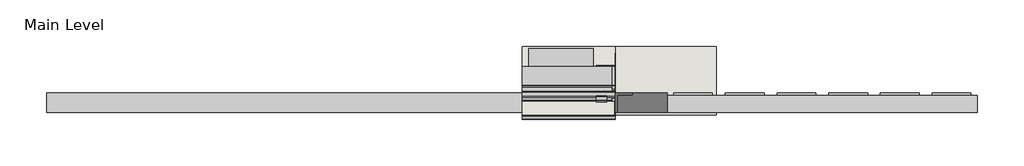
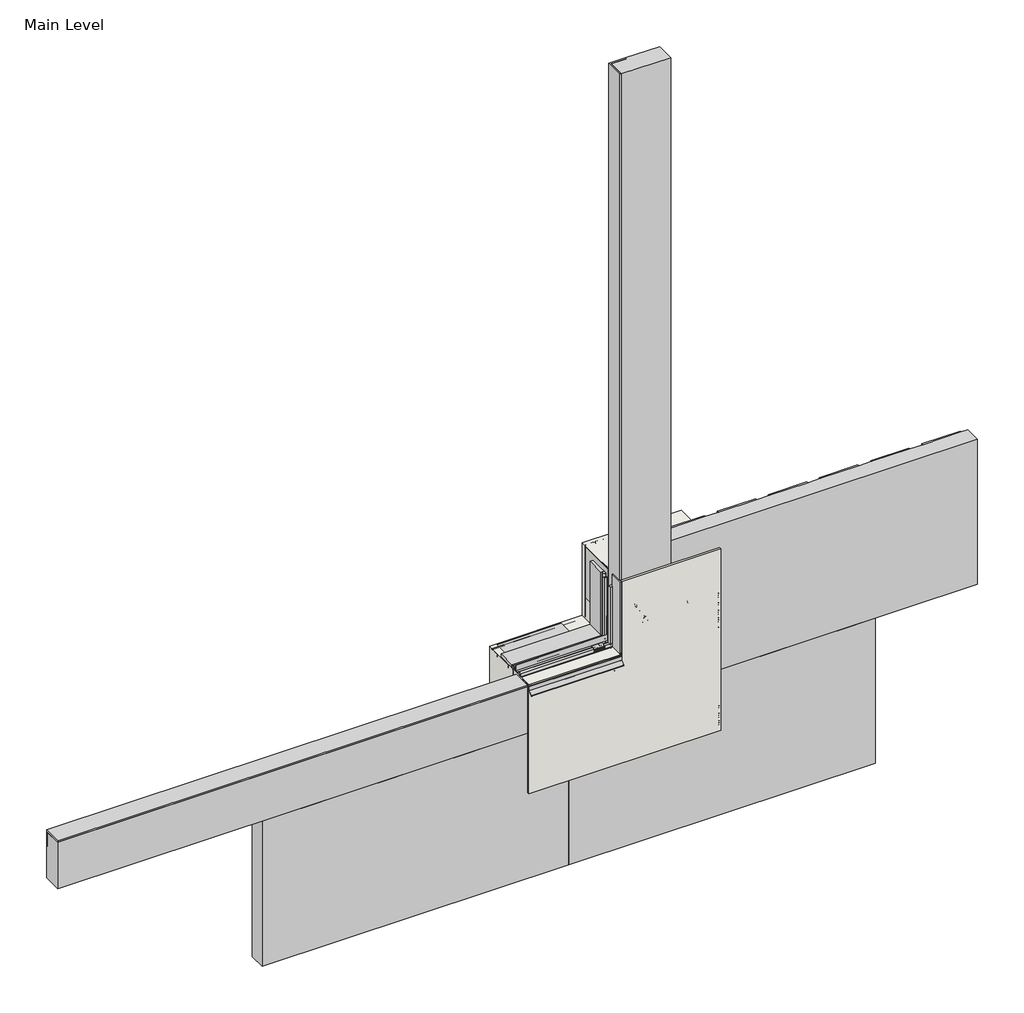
# One storey, incomplete: 26 proxies, 1 wall.
"""IFC4 building model written with IfcOpenShell, lengths in millimetres."""

from ifc_helpers import new_model, si_unit, frame, origin, place, context, project, spatial, polyline, outline, extrude, transform, mapped, element, save
from components import generic_models_31547c53, generic_models_d28646c3, generic_models_4f6b713c, generic_models_388356b2, generic_models_2850309d, generic_models_672f9cdd, generic_models_9b4c3a2c, generic_models_3fb7d6d8, generic_models_8c792c9c, proxy_4c3b85e5, proxy_c7e97176, proxy_8bbb4755, proxy_215900e5, finish_coat_filler_finish_coat_filler_dfa12fb7, masonry_sill_masonry_sill_b8c52efa, masonry_sill1_masonry_sill_349c8951, masonry_sill3_masonry_sill_9eb3d358, masonry_sill4_masonry_sill_9228ef93, proxy_a3fd9b0b, proxy_3a0ad636, proxy_0073da47, proxy_6f3203ff, window_header_window_header_abd4ef46, wood_blocking_5320d369

model = new_model("IFC4")

# Units and contexts
model_context = context("Model", 3, world=origin())
ifc_project = project(units=[si_unit("LENGTHUNIT", "METRE", prefix="MILLI")], contexts=[model_context])

# Site, building, storey
site = spatial("IfcSite", under=ifc_project)
building = spatial("IfcBuilding", under=site)
storey = spatial("IfcBuildingStorey", under=building, Name="Main Level", Elevation=0.0)

# Proxies
placement = place(None, origin())
generic_models_shape = generic_models_31547c53(model_context)
element("IfcBuildingElementProxy", 1, Name="Durabond Generic Model Sealant Vent : Durabond Generic Model Sealant Vent", ObjectType="Durabond Generic Model Sealant Vent : Durabond Generic Model Sealant Vent", at=placement, inside=storey, context=model_context, shape_type="MappedRepresentation", body=[
    mapped(generic_models_shape, transform((26800.7195523, 590.8476543, 464.646745), x_axis=(1.0, 0.0, 0.0), y_axis=(0.0, 0.08715574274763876, -0.9961946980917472), z_axis=(0.0, 0.9961946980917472, 0.08715574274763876))),
])
generic_models_2_shape = generic_models_d28646c3(model_context)
element("IfcBuildingElementProxy", 2, Name="CRAi Generic Model Line Based Drip Deflector : CRAi Generic Model Line Based Drip Deflector", ObjectType="CRAi Generic Model Line Based Drip Deflector : CRAi Generic Model Line Based Drip Deflector", at=placement, inside=storey, context=model_context, shape_type="MappedRepresentation", body=[
    mapped(generic_models_2_shape, transform((26855.8851773, 535.1829375, 451.8088934), x_axis=(0.0, 0.996194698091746, 0.08715574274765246), y_axis=(-1.0, 0.0, 0.0), z_axis=(0.0, -0.0871557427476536, 0.996194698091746))),
])
generic_models_3_shape = generic_models_4f6b713c(model_context)
generic_models_4_shape = generic_models_388356b2(model_context)
generic_models_5_shape = generic_models_2850309d(model_context)
element("IfcBuildingElementProxy", 3, Name="CRAi Generic Model Mesh Piece Face Based : CRAi Generic Model Mesh Piece Face Based", ObjectType="CRAi Generic Model Mesh Piece Face Based : CRAi Generic Model Mesh Piece Face Based", at=placement, inside=storey, context=model_context, shape_type="MappedRepresentation", body=[
    mapped(generic_models_3_shape, transform((27052.7351773, 541.9066297, 504.9011686), x_axis=(-1.0, 0.0, 0.0), y_axis=(0.0, 0.0, -1.0), z_axis=(0.0, -1.0, 0.0))),
    mapped(generic_models_4_shape, transform((27052.7351773, 541.9066297, 504.9011686), x_axis=(-1.0, 0.0, 0.0), y_axis=(0.0, 0.0, -1.0), z_axis=(0.0, -1.0, 0.0))),
    mapped(generic_models_5_shape, transform((27052.7351773, 541.9066297, 504.9011686), x_axis=(-1.0, 0.0, 0.0), y_axis=(0.0, 0.0, -1.0), z_axis=(0.0, -1.0, 0.0))),
])
generic_models_6_shape = generic_models_672f9cdd(model_context)
generic_models_7_shape = generic_models_9b4c3a2c(model_context)
generic_models_8_shape = generic_models_3fb7d6d8(model_context)
element("IfcBuildingElementProxy", 4, Name="CRAi Generic Model Mesh Piece Face Based : CRAi Generic Model Mesh Piece Face Based", ObjectType="CRAi Generic Model Mesh Piece Face Based : CRAi Generic Model Mesh Piece Face Based", at=placement, inside=storey, context=model_context, shape_type="MappedRepresentation", body=[
    mapped(generic_models_6_shape, transform((26990.8226773, 541.9066297, 50.8), x_axis=(-1.0, 0.0, 0.0), y_axis=(0.0, 0.0, -1.0), z_axis=(0.0, -1.0, 0.0))),
    mapped(generic_models_7_shape, transform((26990.8226773, 541.9066297, 50.8), x_axis=(-1.0, 0.0, 0.0), y_axis=(0.0, 0.0, -1.0), z_axis=(0.0, -1.0, 0.0))),
    mapped(generic_models_8_shape, transform((26990.8226773, 541.9066297, 50.8), x_axis=(-1.0, 0.0, 0.0), y_axis=(0.0, 0.0, -1.0), z_axis=(0.0, -1.0, 0.0))),
])
generic_models_9_shape = generic_models_8c792c9c(model_context)
element("IfcBuildingElementProxy", 5, Name="Durabond Generic Model Screw w Standard Wall Plate : Durabond Generic Model Screw w Standard Wall Plate", ObjectType="Durabond Generic Model Screw w Standard Wall Plate : Durabond Generic Model Screw w Standard Wall Plate", at=placement, inside=storey, context=model_context, shape_type="MappedRepresentation", body=[
    mapped(generic_models_9_shape, transform((26925.7351773, 547.4628797, 622.3), x_axis=(1.0, 0.0, 0.0), y_axis=(0.0, 0.0, 1.0), z_axis=(0.0, -1.0, 0.0))),
])
element("IfcBuildingElementProxy", 6, Name="Durabond Generic Model Screw w Standard Wall Plate : Durabond Generic Model Screw w Standard Wall Plate", ObjectType="Durabond Generic Model Screw w Standard Wall Plate : Durabond Generic Model Screw w Standard Wall Plate", at=placement, inside=storey, context=model_context, shape_type="MappedRepresentation", body=[
    mapped(generic_models_9_shape, transform((26957.4851773, 544.2878797, 571.5265593), x_axis=(1.0, 0.0, 0.0), y_axis=(0.0, 0.0, 1.0), z_axis=(0.0, -1.0, 0.0))),
])
element("IfcBuildingElementProxy", 7, Name="Durabond Generic Model Screw w Standard Wall Plate : Durabond Generic Model Screw w Standard Wall Plate", ObjectType="Durabond Generic Model Screw w Standard Wall Plate : Durabond Generic Model Screw w Standard Wall Plate", at=placement, inside=storey, context=model_context, shape_type="MappedRepresentation", body=[
    mapped(generic_models_9_shape, transform((27097.1851773, 547.4628797, 622.3), x_axis=(1.0, 0.0, 0.0), y_axis=(0.0, 0.0, 1.0), z_axis=(0.0, -1.0, 0.0))),
])
element("IfcBuildingElementProxy", 8, Name="Durabond Generic Model Screw w Standard Wall Plate : Durabond Generic Model Screw w Standard Wall Plate", ObjectType="Durabond Generic Model Screw w Standard Wall Plate : Durabond Generic Model Screw w Standard Wall Plate", at=placement, inside=storey, context=model_context, shape_type="MappedRepresentation", body=[
    mapped(generic_models_9_shape, transform((27128.9351773, 544.2878797, 571.5265593), x_axis=(1.0, 0.0, 0.0), y_axis=(0.0, 0.0, 1.0), z_axis=(0.0, -1.0, 0.0))),
])
proxy_shape = proxy_4c3b85e5(model_context)
element("IfcBuildingElementProxy", 9, Name="Durabond Generic Model Insulite Select Extruded Boundary Board : 3\"", ObjectType="Durabond Generic Model Insulite Select Extruded Boundary Board : 3\"", at=placement, inside=storey, context=model_context, shape_type="MappedRepresentation", body=[
    mapped(proxy_shape, transform((25839.8851773, 624.4566297, 349.375778), x_axis=(-1.0, 0.0, 0.0), y_axis=(0.0, 0.0, -1.0), z_axis=(0.0, -1.0, 0.0))),
])
proxy_2_shape = proxy_c7e97176(model_context)
element("IfcBuildingElementProxy", 10, Name="Durabond Generic Model Insulite Select Extruded Boundary Board : 3\"", ObjectType="Durabond Generic Model Insulite Select Extruded Boundary Board : 3\"", at=placement, inside=storey, context=model_context, shape_type="MappedRepresentation", body=[
    mapped(proxy_2_shape, transform((26957.4851773, 624.4566297, 1670.175778), x_axis=(0.0, 0.0, 1.0), y_axis=(-1.0, 0.0, 0.0), z_axis=(0.0, -1.0, 0.0))),
])
proxy_3_shape = proxy_8bbb4755(model_context)
element("IfcBuildingElementProxy", 11, Name="Durabond Generic Model Insulite Select Extruded Insulation Board : 3\"", ObjectType="Durabond Generic Model Insulite Select Extruded Insulation Board : 3\"", at=placement, inside=storey, context=model_context, shape_type="MappedRepresentation", body=[
    mapped(proxy_3_shape, transform((27262.2851773, 624.4566297, -57.024222), x_axis=(1.0, 0.0, 0.0), y_axis=(0.0, 0.0, 1.0), z_axis=(0.0, -1.0, 0.0))),
])
element("IfcBuildingElementProxy", 12, Name="Durabond Generic Model Insulite Select Extruded Insulation Board : 3\"", ObjectType="Durabond Generic Model Insulite Select Extruded Insulation Board : 3\"", at=placement, inside=storey, context=model_context, shape_type="MappedRepresentation", body=[
    mapped(proxy_3_shape, transform((27668.6851773, 624.4566297, 552.575778), x_axis=(1.0, 0.0, 0.0), y_axis=(0.0, 0.0, 1.0), z_axis=(0.0, -1.0, 0.0))),
])
proxy_4_shape = proxy_215900e5(model_context)
element("IfcBuildingElementProxy", 13, Name="Durabond Generic Model Insulite Select Extruded Insulation Board : 3\"", ObjectType="Durabond Generic Model Insulite Select Extruded Insulation Board : 3\"", at=placement, inside=storey, context=model_context, shape_type="MappedRepresentation", body=[
    mapped(proxy_4_shape, transform((26043.0851773, 624.4566297, -57.024222), x_axis=(-1.0, 0.0, 0.0), y_axis=(0.0, 0.0, -1.0), z_axis=(0.0, -1.0, 0.0))),
])
finish_coat_filler_finish_coat_filler_shape = finish_coat_filler_finish_coat_filler_dfa12fb7(model_context)
element("IfcBuildingElementProxy", 14, Name="Finish Coat Filler : Finish Coat Filler", ObjectType="Finish Coat Filler : Finish Coat Filler", at=placement, inside=storey, context=model_context, shape_type="MappedRepresentation", body=[
    mapped(finish_coat_filler_finish_coat_filler_shape, transform((0.0, 0.0, 0.0), x_axis=(1.0, 0.0, 0.0), y_axis=(0.0, 1.0, 0.0), z_axis=(0.0, 0.0, 1.0))),
])
masonry_sill_masonry_sill_shape = masonry_sill_masonry_sill_b8c52efa(model_context)
element("IfcBuildingElementProxy", 15, Name="Masonry Sill : Masonry Sill", ObjectType="Masonry Sill : Masonry Sill", at=placement, inside=storey, context=model_context, shape_type="MappedRepresentation", body=[
    mapped(masonry_sill_masonry_sill_shape, transform((0.0, 0.0, 0.0), x_axis=(1.0, 0.0, 0.0), y_axis=(0.0, 1.0, 0.0), z_axis=(0.0, 0.0, 1.0))),
])
masonry_sill1_masonry_sill_shape = masonry_sill1_masonry_sill_349c8951(model_context)
element("IfcBuildingElementProxy", 16, Name="Masonry Sill1 : Masonry Sill", ObjectType="Masonry Sill1 : Masonry Sill", at=placement, inside=storey, context=model_context, shape_type="MappedRepresentation", body=[
    mapped(masonry_sill1_masonry_sill_shape, transform((0.0, 0.0, 0.0), x_axis=(1.0, 0.0, 0.0), y_axis=(0.0, 1.0, 0.0), z_axis=(0.0, 0.0, 1.0))),
])
masonry_sill3_masonry_sill_shape = masonry_sill3_masonry_sill_9eb3d358(model_context)
element("IfcBuildingElementProxy", 17, Name="Masonry Sill3 : Masonry Sill", ObjectType="Masonry Sill3 : Masonry Sill", at=placement, inside=storey, context=model_context, shape_type="MappedRepresentation", body=[
    mapped(masonry_sill3_masonry_sill_shape, transform((0.0, 0.0, 0.0), x_axis=(1.0, 0.0, 0.0), y_axis=(0.0, 1.0, 0.0), z_axis=(0.0, 0.0, 1.0))),
])
masonry_sill4_masonry_sill_shape = masonry_sill4_masonry_sill_9228ef93(model_context)
element("IfcBuildingElementProxy", 18, Name="Masonry Sill4 : Masonry Sill", ObjectType="Masonry Sill4 : Masonry Sill", at=placement, inside=storey, context=model_context, shape_type="MappedRepresentation", body=[
    mapped(masonry_sill4_masonry_sill_shape, transform((0.0, 0.0, -101.6), x_axis=(1.0, 0.0, 0.0), y_axis=(0.0, 1.0, 0.0), z_axis=(0.0, 0.0, 1.0))),
])
proxy_5_shape = proxy_a3fd9b0b(model_context)
element("IfcBuildingElementProxy", 19, Name="CRAi Generic Model Metal Stud : Metal Framing Stud - 1\" x 3.5\"", ObjectType="CRAi Generic Model Metal Stud : Metal Framing Stud - 1\" x 3.5\"", at=placement, inside=storey, context=model_context, shape_type="MappedRepresentation", body=[
    mapped(proxy_5_shape, transform((26876.5226773, 726.0566297, 0.0), x_axis=(1.0, 0.0, 0.0), y_axis=(0.0, 1.0, 0.0), z_axis=(0.0, 0.0, 1.0))),
])
proxy_6_shape = proxy_3a0ad636(model_context)
element("IfcBuildingElementProxy", 20, Name="CRAi Generic Model Metal Stud : Metal Framing Stud - 1\" x 3.5\"", ObjectType="CRAi Generic Model Metal Stud : Metal Framing Stud - 1\" x 3.5\"", at=placement, inside=storey, context=model_context, shape_type="MappedRepresentation", body=[
    mapped(proxy_6_shape, transform((26876.5226773, 719.7066297, 0.0), x_axis=(1.0, 0.0, 0.0), y_axis=(0.0, 1.0, 0.0), z_axis=(0.0, 0.0, 1.0))),
])
proxy_7_shape = proxy_0073da47(model_context)
element("IfcBuildingElementProxy", 21, Name="CRAi Generic Model Metal Stud : Metal Framing Stud - 1\" x 3.5\"", ObjectType="CRAi Generic Model Metal Stud : Metal Framing Stud - 1\" x 3.5\"", at=placement, inside=storey, context=model_context, shape_type="MappedRepresentation", body=[
    mapped(proxy_7_shape, transform((26914.6226773, 719.7066297, 0.0), x_axis=(-1.0, 0.0, 0.0), y_axis=(0.0, -1.0, 0.0), z_axis=(0.0, 0.0, 1.0))),
])
proxy_8_shape = proxy_6f3203ff(model_context)
element("IfcBuildingElementProxy", 22, Name="CRAi Generic Model Metal Stud : Metal Framing Stud - 1\" x 3.5\"", ObjectType="CRAi Generic Model Metal Stud : Metal Framing Stud - 1\" x 3.5\"", at=placement, inside=storey, context=model_context, shape_type="MappedRepresentation", body=[
    mapped(proxy_8_shape, transform((26508.2226773, 719.7066297, 0.0), x_axis=(-1.0, 0.0, 0.0), y_axis=(0.0, -1.0, 0.0), z_axis=(0.0, 0.0, 1.0))),
])
window_header_window_header_shape = window_header_window_header_abd4ef46(model_context)
element("IfcBuildingElementProxy", 23, Name="Window Header : Window Header", ObjectType="Window Header : Window Header", at=placement, inside=storey, context=model_context, shape_type="MappedRepresentation", body=[
    mapped(window_header_window_header_shape, transform((0.0, -6.35, 0.0), x_axis=(1.0, 0.0, 0.0), y_axis=(0.0, 1.0, 0.0), z_axis=(0.0, 0.0, 1.0))),
])
wood_blocking_shape = wood_blocking_5320d369(model_context)
element("IfcBuildingElementProxy", 24, Name="CRAi Generic Model Line Based Metal Framing Track : Wood Blocking", ObjectType="CRAi Generic Model Line Based Metal Framing Track : Wood Blocking", at=placement, inside=storey, context=model_context, shape_type="MappedRepresentation", body=[
    mapped(wood_blocking_shape, transform((26489.1726773, 643.5066297, 304.8), x_axis=(1.0, 0.0, 0.0), y_axis=(0.0, 1.0, 0.0), z_axis=(0.0, 0.0, 1.0))),
])
element("IfcBuildingElementProxy", 25, Name="CRAi Generic Model Line Based Metal Framing Track : Wood Blocking", ObjectType="CRAi Generic Model Line Based Metal Framing Track : Wood Blocking", at=placement, inside=storey, context=model_context, shape_type="MappedRepresentation", body=[
    mapped(wood_blocking_shape, transform((26489.1726773, 795.907101, 457.2), x_axis=(1.0, 0.0, 0.0), y_axis=(0.0, -1.0, 0.0), z_axis=(0.0, 0.0, -1.0))),
])
element("IfcBuildingElementProxy", 26, Name="CRAi Generic Model Line Based Metal Framing Track : Wood Blocking", ObjectType="CRAi Generic Model Line Based Metal Framing Track : Wood Blocking", at=placement, inside=storey, context=model_context, shape_type="MappedRepresentation", body=[
    mapped(wood_blocking_shape, transform((26489.1726773, 795.9066297, 304.8), x_axis=(1.0, 0.0, 0.0), y_axis=(0.0, -1.0, 0.0), z_axis=(0.0, 0.0, -1.0))),
])

# Wall
element("IfcWall", 27, ObjectType="189mm (7.5”) EIFS Field Applied on Mtl. Stud Layer - 50mm Grooved Insulation Board Metal Stud Wall(AirStop) 2", at=placement, inside=storey, context=model_context, shape_type="SweptSolid", body=[
    extrude(outline(polyline([(0.0, 26489.1726773), (0.0, 27251.1726773), (762.0, 27251.1726773), (762.0, 26857.4726773), (457.2, 26857.4726773), (457.2, 26489.1726773), (0.0, 26489.1726773)])), frame((0.0, 538.7316297, 0.0), z_axis=(0.0, 1.0, 0.0), x_axis=(0.0, 0.0, 1.0)), (0.0, 0.0, 1.0), 269.875),
])

save(model, "model.ifc")
